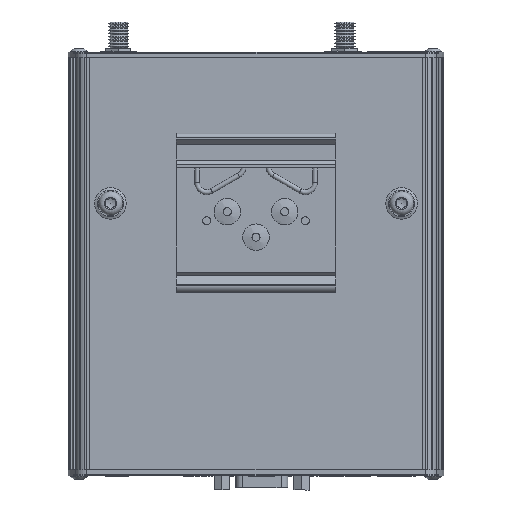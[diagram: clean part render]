
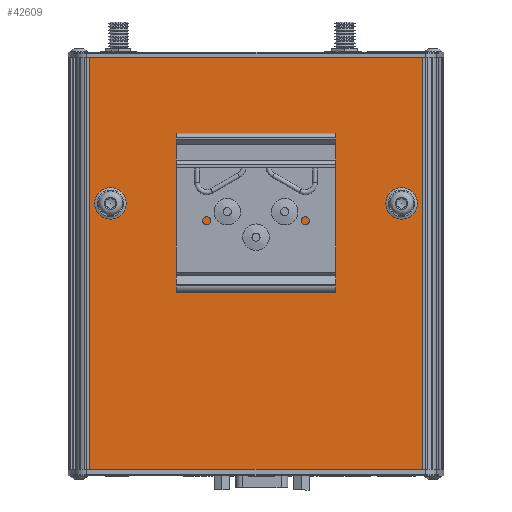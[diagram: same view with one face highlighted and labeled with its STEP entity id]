
A CAD part, front view. The second image highlights one B-rep face of the part: STEP entity #42609.
In plain terms, the highlighted planar face has unit normal (0, -1, 0).
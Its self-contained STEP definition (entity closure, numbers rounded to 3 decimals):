
#568 = VECTOR ( 'NONE', #58975, 1000. ) ;
#1414 = VERTEX_POINT ( 'NONE', #5685 ) ;
#4427 = EDGE_LOOP ( 'NONE', ( #7135 ) ) ;
#4945 = CIRCLE ( 'NONE', #51678, 2.045 ) ;
#5685 = CARTESIAN_POINT ( 'NONE',  ( 52.197, -15.081, 64.77 ) ) ;
#6793 = DIRECTION ( 'NONE',  ( 1., 0., 0. ) ) ;
#7135 = ORIENTED_EDGE ( 'NONE', *, *, #124213, .F. ) ;
#7222 = VECTOR ( 'NONE', #64857, 1000. ) ;
#12390 = ORIENTED_EDGE ( 'NONE', *, *, #43417, .T. ) ;
#15411 = FACE_OUTER_BOUND ( 'NONE', #69970, .T. ) ;
#16786 = CARTESIAN_POINT ( 'NONE',  ( 9., -15.081, 16.21 ) ) ;
#20052 = CIRCLE ( 'NONE', #55530, 2.045 ) ;
#22593 = VERTEX_POINT ( 'NONE', #105920 ) ;
#22780 = FACE_BOUND ( 'NONE', #135722, .T. ) ;
#28524 = DIRECTION ( 'NONE',  ( 1., 0., 0. ) ) ;
#31522 = LINE ( 'NONE', #47218, #568 ) ;
#32275 = LINE ( 'NONE', #32699, #63309 ) ;
#32699 = CARTESIAN_POINT ( 'NONE',  ( -53.207, -15.081, 64.77 ) ) ;
#33806 = LINE ( 'NONE', #93382, #95901 ) ;
#34746 = DIRECTION ( 'NONE',  ( 0., 0., -1. ) ) ;
#37839 = DIRECTION ( 'NONE',  ( 0., 1., 0. ) ) ;
#37942 = VERTEX_POINT ( 'NONE', #101657 ) ;
#42609 = ADVANCED_FACE ( 'NONE', ( #143131, #139464, #22780, #46467, #50093, #15411 ), #118902, .F. ) ;
#42858 = ORIENTED_EDGE ( 'NONE', *, *, #87557, .F. ) ;
#43417 = EDGE_CURVE ( 'NONE', #22593, #47355, #31522, .T. ) ;
#43921 = VERTEX_POINT ( 'NONE', #60413 ) ;
#46467 = FACE_BOUND ( 'NONE', #129294, .T. ) ;
#47218 = CARTESIAN_POINT ( 'NONE',  ( -53.207, -15.081, -64.77 ) ) ;
#47355 = VERTEX_POINT ( 'NONE', #130402 ) ;
#48841 = VERTEX_POINT ( 'NONE', #89368 ) ;
#50093 = FACE_BOUND ( 'NONE', #52535, .T. ) ;
#51379 = DIRECTION ( 'NONE',  ( 0., -1., 0. ) ) ;
#51678 = AXIS2_PLACEMENT_3D ( 'NONE', #16786, #98386, #28524 ) ;
#52535 = EDGE_LOOP ( 'NONE', ( #97538 ) ) ;
#52633 = CARTESIAN_POINT ( 'NONE',  ( 49.093, -15.081, 18.832 ) ) ;
#55530 = AXIS2_PLACEMENT_3D ( 'NONE', #146484, #76585, #6793 ) ;
#55706 = CARTESIAN_POINT ( 'NONE',  ( 11.045, -15.081, 16.21 ) ) ;
#55826 = DIRECTION ( 'NONE',  ( 0., -1., 0. ) ) ;
#57341 = AXIS2_PLACEMENT_3D ( 'NONE', #107660, #37839, #119393 ) ;
#58131 = EDGE_CURVE ( 'NONE', #43921, #22593, #76497, .T. ) ;
#58975 = DIRECTION ( 'NONE',  ( 1., 0., 0. ) ) ;
#60413 = CARTESIAN_POINT ( 'NONE',  ( -52.197, -15.081, 64.77 ) ) ;
#63309 = VECTOR ( 'NONE', #114316, 1000. ) ;
#64857 = DIRECTION ( 'NONE',  ( 0., 0., -1. ) ) ;
#64887 = CARTESIAN_POINT ( 'NONE',  ( -6.955, -15.081, 16.21 ) ) ;
#68177 = EDGE_CURVE ( 'NONE', #81787, #81787, #130853, .T. ) ;
#69654 = DIRECTION ( 'NONE',  ( 0., -1., 0. ) ) ;
#69970 = EDGE_LOOP ( 'NONE', ( #42858, #84978, #123324, #12390 ) ) ;
#70868 = VERTEX_POINT ( 'NONE', #64887 ) ;
#76497 = LINE ( 'NONE', #111798, #7222 ) ;
#76585 = DIRECTION ( 'NONE',  ( 0., -1., 0. ) ) ;
#77047 = EDGE_CURVE ( 'NONE', #70868, #70868, #20052, .T. ) ;
#81787 = VERTEX_POINT ( 'NONE', #52633 ) ;
#83600 = ORIENTED_EDGE ( 'NONE', *, *, #77047, .F. ) ;
#84978 = ORIENTED_EDGE ( 'NONE', *, *, #90579, .F. ) ;
#85300 = VERTEX_POINT ( 'NONE', #55706 ) ;
#87557 = EDGE_CURVE ( 'NONE', #1414, #47355, #33806, .T. ) ;
#89368 = CARTESIAN_POINT ( 'NONE',  ( 2.045, -15.081, 8.21 ) ) ;
#90579 = EDGE_CURVE ( 'NONE', #43921, #1414, #32275, .T. ) ;
#90617 = AXIS2_PLACEMENT_3D ( 'NONE', #139392, #69654, #151186 ) ;
#93382 = CARTESIAN_POINT ( 'NONE',  ( 52.197, -15.081, 64.77 ) ) ;
#95901 = VECTOR ( 'NONE', #34746, 1000. ) ;
#97538 = ORIENTED_EDGE ( 'NONE', *, *, #113105, .F. ) ;
#98386 = DIRECTION ( 'NONE',  ( 0., -1., 0. ) ) ;
#99665 = EDGE_CURVE ( 'NONE', #48841, #48841, #123556, .T. ) ;
#101657 = CARTESIAN_POINT ( 'NONE',  ( -42.347, -15.081, 18.832 ) ) ;
#105920 = CARTESIAN_POINT ( 'NONE',  ( -52.197, -15.081, -64.77 ) ) ;
#107660 = CARTESIAN_POINT ( 'NONE',  ( -53.207, -15.081, 64.77 ) ) ;
#111798 = CARTESIAN_POINT ( 'NONE',  ( -52.197, -15.081, 64.77 ) ) ;
#113039 = ORIENTED_EDGE ( 'NONE', *, *, #99665, .F. ) ;
#113105 = EDGE_CURVE ( 'NONE', #37942, #37942, #125583, .T. ) ;
#114316 = DIRECTION ( 'NONE',  ( 1., 0., 0. ) ) ;
#118650 = AXIS2_PLACEMENT_3D ( 'NONE', #121244, #51379, #132930 ) ;
#118902 = PLANE ( 'NONE',  #57341 ) ;
#119393 = DIRECTION ( 'NONE',  ( -1., 0., 0. ) ) ;
#121244 = CARTESIAN_POINT ( 'NONE',  ( 45.72, -15.081, 18.832 ) ) ;
#122579 = ORIENTED_EDGE ( 'NONE', *, *, #68177, .F. ) ;
#123324 = ORIENTED_EDGE ( 'NONE', *, *, #58131, .T. ) ;
#123556 = CIRCLE ( 'NONE', #131656, 2.045 ) ;
#124213 = EDGE_CURVE ( 'NONE', #85300, #85300, #4945, .T. ) ;
#125583 = CIRCLE ( 'NONE', #90617, 3.373 ) ;
#125620 = CARTESIAN_POINT ( 'NONE',  ( 0., -15.081, 8.21 ) ) ;
#127406 = EDGE_LOOP ( 'NONE', ( #113039 ) ) ;
#129294 = EDGE_LOOP ( 'NONE', ( #122579 ) ) ;
#130402 = CARTESIAN_POINT ( 'NONE',  ( 52.197, -15.081, -64.77 ) ) ;
#130853 = CIRCLE ( 'NONE', #118650, 3.373 ) ;
#131656 = AXIS2_PLACEMENT_3D ( 'NONE', #125620, #55826, #137328 ) ;
#132930 = DIRECTION ( 'NONE',  ( 1., 0., 0. ) ) ;
#135722 = EDGE_LOOP ( 'NONE', ( #83600 ) ) ;
#137328 = DIRECTION ( 'NONE',  ( 1., 0., 0. ) ) ;
#139392 = CARTESIAN_POINT ( 'NONE',  ( -45.72, -15.081, 18.832 ) ) ;
#139464 = FACE_BOUND ( 'NONE', #127406, .T. ) ;
#143131 = FACE_BOUND ( 'NONE', #4427, .T. ) ;
#146484 = CARTESIAN_POINT ( 'NONE',  ( -9., -15.081, 16.21 ) ) ;
#151186 = DIRECTION ( 'NONE',  ( 1., 0., 0. ) ) ;
